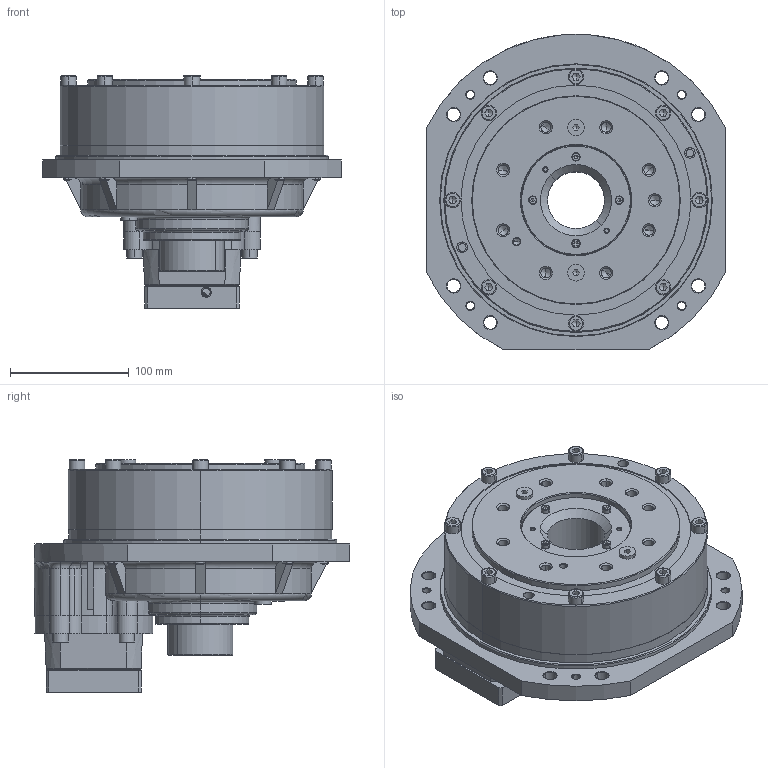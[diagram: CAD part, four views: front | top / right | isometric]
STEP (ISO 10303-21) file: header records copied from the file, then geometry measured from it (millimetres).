
FILE_DESCRIPTION (( 'STEP AP214' ), '1' );
FILE_NAME ('50CBX-RCA-19-70-90.STEP', '2022-11-13T03:27:45', ( '' ), ( '' ), 'SwSTEP 2.0', 'SolidWorks 2020', '' );
FILE_SCHEMA (( 'AUTOMOTIVE_DESIGN' ));
Length unit declared in the file: millimetre
Products named in the file (25): 錨璃517^50CBX-RCA-19-70-90; 坶踡ん22-45.stp; 笢潔楊擘50C-RDS-80遺.stp; O 形密封圈 50 x 3.5-G.stp; 弹性挡圈GB 894.1-86 - 60.stp; 50C.stp; AS 568 - DASH # 169(5).stp; DIN 908 - G 0.125 A.stp; 蹟隊 GB_T 70.1 M10 x 35.stp; 蹟隊 GB_T 70.1 M8 x 80.stp; 输入轴RDS-19本体.stp; 50C腴厒奪.stp; 50CBX-RCA-19-70-90; JIS B 2402 - 50 65 8 A(7).stp; 50CBX-RCA-19-70-90.stp; 萇儂假蚾楊擘70-90-57.stp; 蹟隊 GB_T 70.1 M4 x 10.stp; 50C-假蚾楊擘-new design.stp; 蹟隊 GB_T 70.1 M5 x 16.stp; TC 55x70x8.stp; 弹性挡圈GB 893.1-86 - 85.stp; 蹟隊 GB_T 70.1 M8 x 25.stp; 50C-笢陑喘謫A.stp; 粣創 61813-2Z GB_T 276-94.stp; 粣創 61912-Z GB_T 276-94.stp
Assembly tree (45 placements, depth 3):
  50CBX-RCA-19-70-90
    50CBX-RCA-19-70-90.stp
      50C.stp
      50C-假蚾楊擘-new design.stp
      粣創 61813-2Z GB_T 276-94.stp  x2
      50C-笢陑喘謫A.stp
      蹟隊 GB_T 70.1 M10 x 35.stp  x6
      50C腴厒奪.stp
      AS 568 - DASH # 169(5).stp
      O 形密封圈 50 x 3.5-G.stp
      蹟隊 GB_T 70.1 M4 x 10.stp  x4
      TC 55x70x8.stp
      DIN 908 - G 0.125 A.stp  x3
      粣創 61912-Z GB_T 276-94.stp
      弹性挡圈GB 893.1-86 - 85.stp
      弹性挡圈GB 894.1-86 - 60.stp
      蹟隊 GB_T 70.1 M8 x 80.stp  x8
      笢潔楊擘50C-RDS-80遺.stp
      萇儂假蚾楊擘70-90-57.stp
      输入轴RDS-19本体.stp
      JIS B 2402 - 50 65 8 A(7).stp
      坶踡ん22-45.stp
      蹟隊 GB_T 70.1 M5 x 16.stp
      蹟隊 GB_T 70.1 M8 x 25.stp  x4
    錨璃517^50CBX-RCA-19-70-90
Bounding box: 252 x 266 x 196 mm (x, y, z)
Volume: 4158440.4 mm3; surface area: 688853.2 mm2
Topology: 176 solids, 176 shells, 4240 faces, 11165 edges, 7200 vertices
Faces by surface type: plane 1544, cylinder 1097, bspline 578, cone 482, torus 411, sphere 128
Entity records: 141987 total; most frequent: CARTESIAN_POINT 53234, ORIENTED_EDGE 18770, DIRECTION 16610, EDGE_CURVE 9385, VERTEX_POINT 6122, AXIS2_PLACEMENT_3D 5783, LINE 5044, VECTOR 5044
